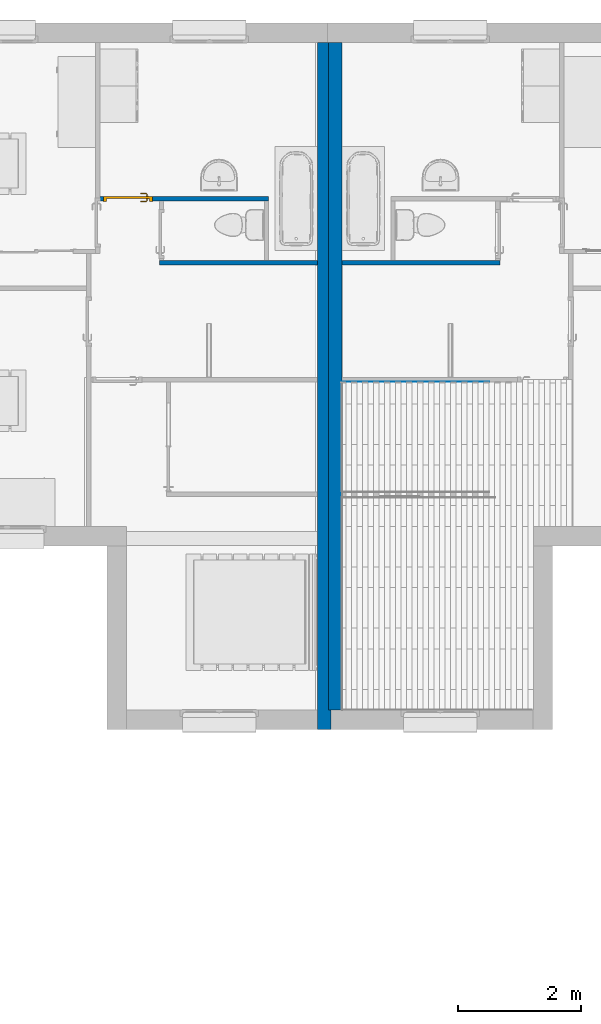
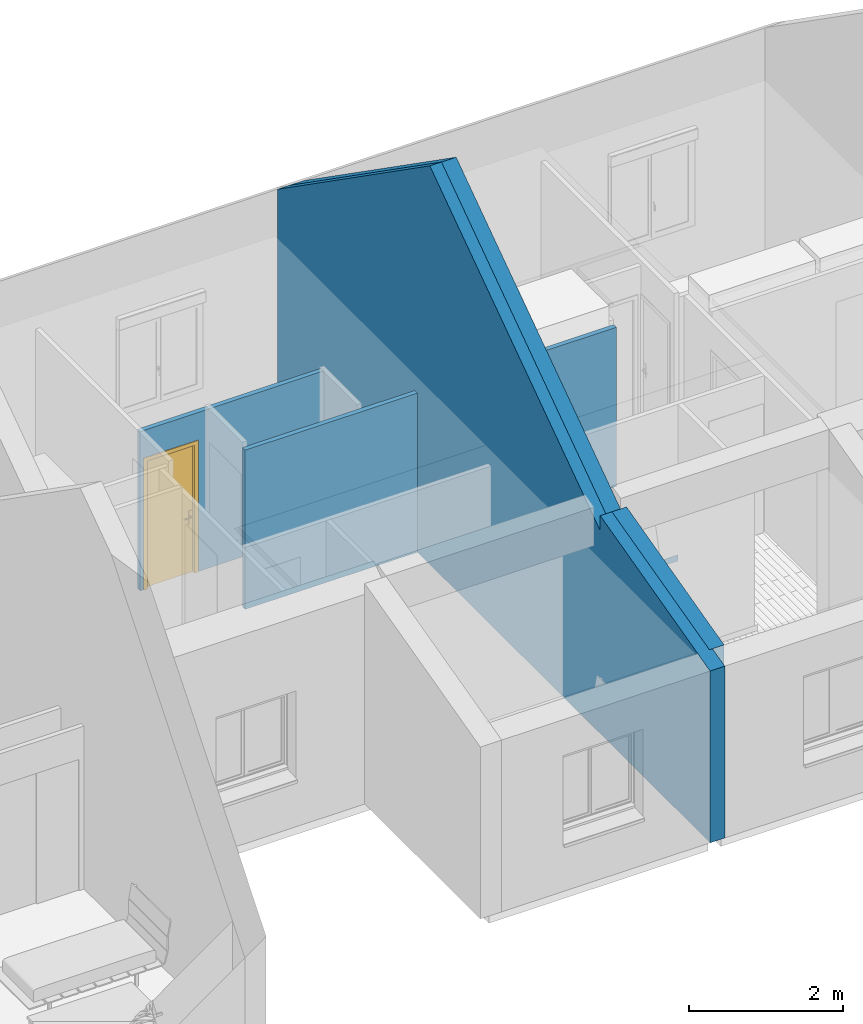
# One storey, part 31 of 50: 6 walls, 1 door, 1 opening.
"""IFC2X3 building model written with IfcOpenShell, lengths in metres."""

from ifc_helpers import new_model, entity, si_unit, converted_unit, derived_unit, direction, frame, frame_2d, origin, place, context, subcontext, project, spatial, polyline, rectangle, extrude, clip, halfspace, bounded_halfspace, faceted_brep, source, transform, mapped, material, material_list, layer, layer_set, layer_usage, type_object, type_shapes, element, fill, save


model = new_model("IFC2X3")

# Units and contexts
model_context = context("Model", 3, precision=1e-05, world=origin(), true_north=direction((6.12303176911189e-17, 1.0)))
context_of_model = context(None, 3, precision=1e-05, world=origin(), true_north=direction((6.12303176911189e-17, 1.0)))
body_context = subcontext(model_context, "Body", "Model", "MODEL_VIEW")
ifc_project = project(units=[si_unit("LENGTHUNIT", "METRE"), si_unit("AREAUNIT", "SQUARE_METRE"), si_unit("VOLUMEUNIT", "CUBIC_METRE"), converted_unit("PLANEANGLEUNIT", "DEGREE", entity("IfcRatioMeasure", 0.0174532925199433), si_unit("PLANEANGLEUNIT", "RADIAN"), dimensions=[0, 0, 0, 0, 0, 0, 0]), si_unit("MASSUNIT", "GRAM", prefix="KILO"), si_unit("TIMEUNIT", "SECOND"), si_unit("FREQUENCYUNIT", "HERTZ"), si_unit("THERMODYNAMICTEMPERATUREUNIT", "DEGREE_CELSIUS"), derived_unit("THERMALTRANSMITTANCEUNIT", [(si_unit("MASSUNIT", "GRAM", prefix="KILO"), 1), (si_unit("THERMODYNAMICTEMPERATUREUNIT", "KELVIN"), -1), (si_unit("TIMEUNIT", "SECOND"), -3)]), derived_unit("VOLUMETRICFLOWRATEUNIT", [(si_unit("LENGTHUNIT", "METRE"), 3), (si_unit("TIMEUNIT", "SECOND"), -1)]), si_unit("ELECTRICCURRENTUNIT", "AMPERE"), si_unit("ELECTRICVOLTAGEUNIT", "VOLT"), si_unit("POWERUNIT", "WATT"), si_unit("FORCEUNIT", "NEWTON", prefix="KILO"), si_unit("ILLUMINANCEUNIT", "LUX"), si_unit("LUMINOUSFLUXUNIT", "LUMEN"), si_unit("LUMINOUSINTENSITYUNIT", "CANDELA"), si_unit("PRESSUREUNIT", "PASCAL")], contexts=[model_context, context_of_model])

# Site, building, storey
site_placement = place(None, origin())
site = spatial("IfcSite", under=ifc_project, at=site_placement, Name="Surface", CompositionType="ELEMENT")
building_placement = place(site_placement, origin())
building = spatial("IfcBuilding", under=site, at=building_placement, CompositionType="ELEMENT")
storey_placement = place(building_placement, frame((0.0, 0.0, 2.82)))
storey = spatial("IfcBuildingStorey", under=building, at=storey_placement, Name="ETAGE", CompositionType="ELEMENT", Elevation=2.82)

# Walls
ifc_material_1 = material(Name="Peinture - Blanc")
ifc_layer_1 = layer(ifc_material_1, 0.07)
ifc_layer_set_1 = layer_set([ifc_layer_1], Name="Mur de base:Int.  Platre 70 mm en blanc")
ifc_layer_usage_1 = layer_usage(ifc_layer_set_1, "AXIS2", "NEGATIVE", 0.035)
wall_type_1 = type_object("IfcWallType", Name="Mur de base:Int.  Platre 70 mm en blanc", PredefinedType="STANDARD", material=ifc_layer_set_1)
wall_1_placement = place(storey_placement, frame((83.9264023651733, 88.5492045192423, 0.0)))
element("IfcWallStandardCase", 1, at=wall_1_placement, inside=storey, type_object=wall_type_1, material=ifc_layer_usage_1, Name="Mur de base:Int.  Platre 70 mm en blanc", ObjectType="Mur de base:Int.  Platre 70 mm en blanc", context=body_context, shape_type="SweptSolid", body=[
    extrude(rectangle(XDim=2.58204916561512, YDim=0.0699999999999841, at=frame_2d((1.29102458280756, 0.0), x_axis=(-1.0, 0.0))), origin(), (0.0, 0.0, 1.0), 2.52),
])
ifc_layer_usage_2 = layer_usage(ifc_layer_set_1, "AXIS2", "POSITIVE", -0.035)
wall_2_placement = place(storey_placement, frame((83.5314023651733, 88.5492045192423, 0.0), z_axis=(0.0, 0.0, 1.0), x_axis=(-1.0, 0.0, 0.0)))
element("IfcWallStandardCase", 2, at=wall_2_placement, inside=storey, type_object=wall_type_1, material=ifc_layer_usage_2, Name="Mur de base:Int.  Platre 70 mm en blanc", ObjectType="Mur de base:Int.  Platre 70 mm en blanc", context=body_context, shape_type="SweptSolid", body=[
    extrude(rectangle(XDim=2.58204916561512, YDim=0.0699999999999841, at=frame_2d((1.29102458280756, 0.0), x_axis=(-1.0, 0.0))), origin(), (0.0, 0.0, 1.0), 2.52),
])

# Wall, opening, door
ifc_layer_usage_3 = layer_usage(ifc_layer_set_1, "AXIS2", "POSITIVE", -0.035)
wall_3_placement = place(storey_placement, frame((82.7310189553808, 89.5925239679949, 0.0), z_axis=(0.0, 0.0, 1.0), x_axis=(-1.0, 0.0, 0.0)))
wall_3 = element("IfcWallStandardCase", 3, at=wall_3_placement, inside=storey, type_object=wall_type_1, material=ifc_layer_usage_3, Name="Mur de base:Int.  Platre 70 mm en blanc", ObjectType="Mur de base:Int.  Platre 70 mm en blanc", context=body_context, shape_type="SweptSolid", body=[
    extrude(rectangle(XDim=2.7521165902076, YDim=0.0699999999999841, at=frame_2d((1.3760582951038, 2.04350425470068e-15), x_axis=(-1.0, 0.0))), origin(), (0.0, 0.0, 1.0), 2.52),
])
opening_placement = place(wall_3_placement, frame((2.69355829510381, 0.0350000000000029, 0.0)))
opening = element("IfcOpeningElement", 4, at=opening_placement, cuts=wall_3, Name="FR_Simple (R):73 x 204 - (70):1", ObjectType="Opening", context=body_context, shape_type="SweptSolid", body=[
    extrude(rectangle(XDim=2.075, YDim=0.799999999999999, at=frame_2d((1.0375, 0.400000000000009), x_axis=(1.0, 0.0))), frame((0.0, 0.0, 0.0), z_axis=(0.0, -1.0, 0.0), x_axis=(0.0, 0.0, 1.0)), (0.0, 0.0, 1.0), 0.07),
])
ifc_material_2 = material(Name="Poignée Porte")
ifc_material_3 = material(Name="Dormants Portes")
ifc_material_4 = material(Name="Panneaux Portes")
ifc_material_list_1 = material_list([ifc_material_2, ifc_material_3, ifc_material_4])
ifc_material_list_2 = material_list([ifc_material_2, ifc_material_3, ifc_material_4])
door_style = type_object("IfcDoorStyle", Name="73 x 204 - (70)", ConstructionType="NOTDEFINED", OperationType="SINGLE_SWING_LEFT", ParameterTakesPrecedence=False, Sizeable=False, material=ifc_material_list_2)
shared_shape = source(origin(), body_context, "Body", "Brep", [
    faceted_brep([(0.100352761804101, -0.0130000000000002, 0.766003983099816), (0.11, -0.0130000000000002, 0.770000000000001), (0.11, -0.0130000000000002, 0.980000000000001), (0.100352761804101, -0.0130000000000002, 0.983996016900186), (0.0900000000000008, -0.0130000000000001, 0.985358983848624), (0.0796472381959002, -0.0130000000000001, 0.983996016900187), (0.0700000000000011, -0.0130000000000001, 0.980000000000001), (0.0700000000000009, -0.0130000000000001, 0.770000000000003), (0.0796472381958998, -0.0130000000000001, 0.766003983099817), (0.0900000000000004, -0.0130000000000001, 0.764641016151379), (0.100352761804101, -0.00800000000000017, 0.983996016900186), (0.11, -0.00800000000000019, 0.980000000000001), (0.11, -0.00800000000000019, 0.770000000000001), (0.100352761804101, -0.00800000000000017, 0.766003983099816), (0.0900000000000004, -0.00800000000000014, 0.764641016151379), (0.0796472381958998, -0.0080000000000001, 0.766003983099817), (0.0700000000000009, -0.00800000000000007, 0.770000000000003), (0.0700000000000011, -0.00800000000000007, 0.980000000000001), (0.0796472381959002, -0.0080000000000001, 0.983996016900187), (0.0900000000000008, -0.00800000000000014, 0.985358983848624)], [[[0, 1, 2, 3, 4, 5, 6, 7, 8, 9]], [[10, 11, 12, 13, 14, 15, 16, 17, 18, 19]], [[16, 15, 8, 7]], [[8, 15, 14, 9]], [[14, 13, 0, 9]], [[13, 12, 1, 0]], [[2, 1, 12, 11]], [[11, 10, 3, 2]], [[3, 10, 19, 4]], [[19, 18, 5, 4]], [[18, 17, 6, 5]], [[7, 6, 17, 16]]]),
    faceted_brep([(0.100352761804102, 0.0319999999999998, 0.766003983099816), (0.110000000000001, 0.0319999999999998, 0.770000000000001), (0.11, 0.0319999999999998, 0.980000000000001), (0.100352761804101, 0.0319999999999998, 0.983996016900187), (0.0900000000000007, 0.0319999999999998, 0.985358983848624), (0.0796472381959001, 0.0319999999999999, 0.983996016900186), (0.0700000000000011, 0.0319999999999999, 0.980000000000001), (0.0700000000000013, 0.0319999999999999, 0.770000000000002), (0.0796472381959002, 0.0319999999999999, 0.766003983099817), (0.0900000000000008, 0.0319999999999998, 0.764641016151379), (0.100352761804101, 0.0369999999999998, 0.983996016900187), (0.11, 0.0369999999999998, 0.980000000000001), (0.110000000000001, 0.0369999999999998, 0.770000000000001), (0.100352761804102, 0.0369999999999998, 0.766003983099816), (0.0900000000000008, 0.0369999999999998, 0.764641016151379), (0.0796472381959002, 0.0369999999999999, 0.766003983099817), (0.0700000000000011, 0.0369999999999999, 0.770000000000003), (0.0700000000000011, 0.0369999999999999, 0.980000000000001), (0.0796472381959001, 0.0369999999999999, 0.983996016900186), (0.0900000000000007, 0.0369999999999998, 0.985358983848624)], [[[0, 1, 2, 3, 4, 5, 6, 7, 8, 9]], [[10, 11, 12, 13, 14, 15, 16, 17, 18, 19]], [[11, 10, 3, 2]], [[3, 10, 19, 4]], [[19, 18, 5, 4]], [[18, 17, 6, 5]], [[7, 6, 17, 16]], [[16, 15, 8, 7]], [[8, 15, 14, 9]], [[14, 13, 0, 9]], [[13, 12, 1, 0]], [[2, 1, 12, 11]]]),
    faceted_brep([(0.0879747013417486, -0.0130000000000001, 0.907780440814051), (0.0920252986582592, -0.0130000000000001, 0.907780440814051), (0.0960000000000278, -0.0130000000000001, 0.906999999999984), (0.0960000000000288, -0.0130000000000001, 0.893000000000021), (0.0920252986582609, -0.0130000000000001, 0.89221955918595), (0.0879747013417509, -0.0130000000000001, 0.892219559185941), (0.0839999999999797, -0.0130000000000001, 0.892999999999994), (0.0839999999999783, -0.0130000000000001, 0.90699999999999), (0.083999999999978, -0.0406509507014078, 0.906999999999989), (0.0879747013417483, -0.0390045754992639, 0.907780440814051), (0.104023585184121, -0.0550534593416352, 0.907780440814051), (0.105701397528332, -0.0510028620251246, 0.907780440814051), (0.0920252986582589, -0.0373267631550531, 0.907780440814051), (0.198521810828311, -0.0473891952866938, 0.90778044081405), (0.195657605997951, -0.0445249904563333, 0.90778044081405), (0.18917973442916, -0.0510028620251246, 0.90778044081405), (0.190857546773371, -0.0550534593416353, 0.90778044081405), (0.0960000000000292, -0.0356803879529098, 0.90699999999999), (0.0960000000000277, -0.0356803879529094, 0.893000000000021), (0.0920252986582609, -0.0373267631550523, 0.89221955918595), (0.105701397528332, -0.0510028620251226, 0.89221955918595), (0.104023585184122, -0.0550534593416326, 0.89221955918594), (0.0879747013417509, -0.0390045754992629, 0.89221955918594), (0.195657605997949, -0.044524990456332, 0.89221955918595), (0.19852181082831, -0.0473891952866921, 0.89221955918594), (0.19085754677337, -0.0550534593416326, 0.89221955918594), (0.18917973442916, -0.0510028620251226, 0.89221955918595), (0.0839999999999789, -0.0406509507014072, 0.892999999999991), (0.102377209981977, -0.0590281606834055, 0.906999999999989), (0.107347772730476, -0.0470281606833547, 0.90699999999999), (0.107347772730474, -0.0470281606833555, 0.893000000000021), (0.102377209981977, -0.0590281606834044, 0.892999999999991), (0.142307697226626, -0.0590281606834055, 0.906999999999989), (0.147440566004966, -0.053182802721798, 0.907878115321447), (0.192503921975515, -0.0590281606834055, 0.906999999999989), (0.147440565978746, -0.0470281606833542, 0.90699999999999), (0.187533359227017, -0.0470281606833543, 0.906999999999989), (0.187533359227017, -0.0470281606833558, 0.89300000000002), (0.147440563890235, -0.0470281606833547, 0.893000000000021), (0.147440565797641, -0.0531828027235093, 0.892121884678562), (0.192503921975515, -0.0590281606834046, 0.892999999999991), (0.152573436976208, -0.0590281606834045, 0.892999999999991), (0.192847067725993, -0.0417144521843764, 0.906999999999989), (0.201332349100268, -0.0501997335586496, 0.906999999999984), (0.201332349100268, -0.05019973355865, 0.892999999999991), (0.192847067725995, -0.0417144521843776, 0.893000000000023)], [[[0, 1, 2, 3, 4, 5, 6, 7]], [[8, 9, 0, 7]], [[9, 10, 11, 12, 1, 0]], [[13, 14, 15, 16]], [[12, 17, 2, 1]], [[3, 2, 17, 18]], [[18, 19, 4, 3]], [[19, 20, 21, 22, 5, 4]], [[23, 24, 25, 26]], [[22, 27, 6, 5]], [[7, 6, 27, 8]], [[28, 10, 9, 8]], [[11, 29, 17, 12]], [[18, 17, 29, 30]], [[30, 20, 19, 18]], [[21, 31, 27, 22]], [[8, 27, 31, 28]], [[32, 33, 10]], [[33, 32, 16]], [[10, 28, 32]], [[34, 16, 32]], [[33, 35, 11]], [[11, 10, 33]], [[15, 35, 33]], [[29, 11, 35]], [[35, 15, 36]], [[15, 33, 16]], [[30, 29, 35, 36, 37, 38]], [[20, 38, 39]], [[25, 40, 41]], [[31, 21, 41]], [[41, 21, 39]], [[39, 38, 26]], [[26, 25, 39]], [[38, 20, 30]], [[37, 26, 38]], [[20, 39, 21]], [[41, 39, 25]], [[28, 31, 41, 40, 34, 32]], [[42, 14, 13, 43, 44, 24, 23, 45]], [[43, 13, 16, 34]], [[14, 42, 36, 15]], [[37, 36, 42, 45]], [[45, 23, 26, 37]], [[24, 44, 40, 25]], [[34, 40, 44, 43]]]),
    faceted_brep([(0.0879747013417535, 0.0369999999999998, 0.892219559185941), (0.092025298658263, 0.0369999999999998, 0.892219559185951), (0.0960000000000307, 0.0369999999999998, 0.893000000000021), (0.096000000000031, 0.0369999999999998, 0.90699999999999), (0.0920252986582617, 0.0369999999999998, 0.907780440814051), (0.0879747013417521, 0.0369999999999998, 0.907780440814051), (0.0839999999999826, 0.0369999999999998, 0.90699999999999), (0.0839999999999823, 0.0369999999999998, 0.892999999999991), (0.0960000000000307, 0.0594852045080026, 0.893000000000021), (0.0960000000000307, 0.0594852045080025, 0.90699999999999), (0.092025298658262, 0.0611315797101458, 0.907780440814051), (0.105838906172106, 0.0749451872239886, 0.907780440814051), (0.104161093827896, 0.0789957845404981, 0.907780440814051), (0.0879747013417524, 0.0628093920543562, 0.907780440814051), (0.195684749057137, 0.0684673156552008, 0.907780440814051), (0.198548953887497, 0.071331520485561, 0.907780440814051), (0.190884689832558, 0.0789957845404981, 0.907780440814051), (0.189206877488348, 0.0749451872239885, 0.907780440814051), (0.0839999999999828, 0.0644557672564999, 0.90699999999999), (0.0839999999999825, 0.0644557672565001, 0.892999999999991), (0.0879747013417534, 0.0628093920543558, 0.892219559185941), (0.104161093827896, 0.0789957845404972, 0.892219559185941), (0.105838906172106, 0.0749451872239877, 0.892219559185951), (0.0920252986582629, 0.0611315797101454, 0.892219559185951), (0.198548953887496, 0.07133152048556, 0.89221955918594), (0.195684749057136, 0.0684673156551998, 0.89221955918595), (0.189206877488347, 0.0749451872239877, 0.89221955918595), (0.190884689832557, 0.0789957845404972, 0.89221955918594), (0.107485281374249, 0.0709704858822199, 0.893000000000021), (0.107485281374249, 0.0709704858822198, 0.90699999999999), (0.102514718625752, 0.0829704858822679, 0.90699999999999), (0.102514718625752, 0.0829704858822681, 0.892999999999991), (0.147522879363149, 0.0709704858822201, 0.89300000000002), (0.187560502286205, 0.0709704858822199, 0.89300000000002), (0.187560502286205, 0.0709704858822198, 0.90699999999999), (0.147522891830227, 0.0709704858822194, 0.90699999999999), (0.147522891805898, 0.0771249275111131, 0.907878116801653), (0.192531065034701, 0.0829704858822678, 0.90699999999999), (0.152600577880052, 0.0829704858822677, 0.90699999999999), (0.192531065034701, 0.082970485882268, 0.892999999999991), (0.142445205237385, 0.0829704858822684, 0.892999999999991), (0.147522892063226, 0.0771249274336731, 0.892121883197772), (0.192874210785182, 0.0656567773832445, 0.89300000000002), (0.201359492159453, 0.0741420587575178, 0.892999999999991), (0.201359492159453, 0.0741420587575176, 0.90699999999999), (0.192874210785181, 0.0656567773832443, 0.90699999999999)], [[[0, 1, 2, 3, 4, 5, 6, 7]], [[3, 2, 8, 9]], [[9, 10, 4, 3]], [[10, 11, 12, 13, 5, 4]], [[14, 15, 16, 17]], [[13, 18, 6, 5]], [[7, 6, 18, 19]], [[19, 20, 0, 7]], [[20, 21, 22, 23, 1, 0]], [[24, 25, 26, 27]], [[23, 8, 2, 1]], [[9, 8, 28, 29]], [[29, 11, 10, 9]], [[12, 30, 18, 13]], [[19, 18, 30, 31]], [[31, 21, 20, 19]], [[22, 28, 8, 23]], [[28, 32, 33, 34, 35, 29]], [[11, 35, 36]], [[16, 37, 38]], [[30, 12, 38]], [[38, 12, 36]], [[36, 35, 17]], [[17, 16, 36]], [[35, 11, 29]], [[34, 17, 35]], [[11, 36, 12]], [[38, 36, 16]], [[31, 30, 38, 37, 39, 40]], [[40, 41, 21]], [[41, 40, 27]], [[21, 31, 40]], [[39, 27, 40]], [[41, 32, 22]], [[22, 21, 41]], [[26, 32, 41]], [[28, 22, 32]], [[32, 26, 33]], [[26, 41, 27]], [[42, 25, 24, 43, 44, 15, 14, 45]], [[34, 33, 42, 45]], [[45, 14, 17, 34]], [[15, 44, 37, 16]], [[39, 37, 44, 43]], [[43, 24, 27, 39]], [[25, 42, 33, 26]]]),
    faceted_brep([(0.0, 0.0, 0.0), (0.0, 0.0700000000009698, 0.0), (-0.00999999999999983, 0.0700000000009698, 0.0), (-0.00999999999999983, 0.0780000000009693, 0.0), (0.0499999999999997, 0.0780000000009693, 0.0), (0.0499999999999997, 0.032, 0.0), (0.0350000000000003, 0.032, 0.0), (0.0350000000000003, -0.00799999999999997, 0.0), (-0.00999999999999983, -0.00799999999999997, 0.0), (-0.00999999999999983, 0.0, 0.0), (0.0, 0.0, 2.075), (0.0, 0.0700000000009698, 2.075), (0.799999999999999, 0.0700000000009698, 2.075), (0.799999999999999, 0.0700000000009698, 0.0), (0.809999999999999, 0.0700000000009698, 0.0), (0.809999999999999, 0.0700000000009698, 2.085), (-0.00999999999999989, 0.0700000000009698, 2.085), (-0.00999999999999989, 0.0780000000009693, 2.085), (0.809999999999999, 0.0780000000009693, 2.085), (0.809999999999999, 0.0780000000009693, 0.0), (0.75, 0.0780000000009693, 0.0), (0.75, 0.0780000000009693, 2.025), (0.0499999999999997, 0.0780000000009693, 2.025), (0.0499999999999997, 0.032, 2.025), (0.75, 0.032, 2.025), (0.75, 0.032, 0.0), (0.764999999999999, 0.032, 0.0), (0.764999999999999, 0.032, 2.04), (0.0350000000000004, 0.032, 2.04), (0.0350000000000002, -0.00799999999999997, 2.04), (0.764999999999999, -0.00799999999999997, 2.04), (0.764999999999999, -0.00799999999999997, 0.0), (0.809999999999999, -0.00799999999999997, 0.0), (0.809999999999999, -0.00799999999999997, 2.085), (-0.00999999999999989, -0.00799999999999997, 2.085), (-0.00999999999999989, 0.0, 2.085), (0.809999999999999, 0.0, 2.085), (0.809999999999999, 0.0, 0.0), (0.799999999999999, 0.0, 0.0), (0.799999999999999, 0.0, 2.075)], [[[0, 1, 2, 3, 4, 5, 6, 7, 8, 9]], [[1, 0, 10, 11]], [[2, 1, 11, 12, 13, 14, 15, 16]], [[3, 2, 16, 17]], [[4, 3, 17, 18, 19, 20, 21, 22]], [[5, 4, 22, 23]], [[6, 5, 23, 24, 25, 26, 27, 28]], [[7, 6, 28, 29]], [[8, 7, 29, 30, 31, 32, 33, 34]], [[9, 8, 34, 35]], [[0, 9, 35, 36, 37, 38, 39, 10]], [[11, 10, 39, 12]], [[17, 16, 15, 18]], [[23, 22, 21, 24]], [[29, 28, 27, 30]], [[35, 34, 33, 36]], [[38, 37, 32, 31, 26, 25, 20, 19, 14, 13]], [[12, 39, 38, 13]], [[18, 15, 14, 19]], [[24, 21, 20, 25]], [[30, 27, 26, 31]], [[36, 33, 32, 37]]]),
    faceted_brep([(0.0350000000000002, -0.00799999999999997, 2.04), (0.0350000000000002, -0.00799999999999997, 0.0), (0.764999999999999, -0.00799999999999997, 0.0), (0.764999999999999, -0.00799999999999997, 2.04), (0.0350000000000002, 0.032, 2.04), (0.764999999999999, 0.032, 2.04), (0.764999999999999, 0.032, 0.0), (0.0350000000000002, 0.032, 0.0)], [[[0, 1, 2, 3]], [[4, 5, 6, 7]], [[1, 0, 4, 7]], [[2, 1, 7, 6]], [[3, 2, 6, 5]], [[0, 3, 5, 4]]]),
])
type_shapes(door_style, [shared_shape])
door_placement = place(opening_placement, frame((-0.800000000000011, -0.069999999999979, 0.0)))
door = element("IfcDoor", 5, at=door_placement, inside=storey, type_object=door_style, material=ifc_material_list_1, Name="FR_Simple (R):73 x 204 - (70)", ObjectType="73 x 204 - (70)", OverallHeight=2.075, OverallWidth=0.800000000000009, context=body_context, shape_type="MappedRepresentation", body=[
    mapped(shared_shape, transform((0.0, 0.0, 0.0), scale=1.0)),
])
fill(opening, door)

# Walls
ifc_material_5 = material(Name="Enduit blanc cassé2")
ifc_layer_2 = layer(ifc_material_5, 0.02)
ifc_material_6 = material(Name="Parpaing")
ifc_layer_3 = layer(ifc_material_6, 0.1)
ifc_material_7 = material(Name="Isolant")
ifc_layer_4 = layer(ifc_material_7, 0.1)
ifc_layer_set_2 = layer_set([ifc_layer_2, ifc_layer_3, ifc_layer_4], Name="Mur de base:MITOYEN. Parpaing 10 + Isolant 10+ PLACO 2")
ifc_layer_usage_4 = layer_usage(ifc_layer_set_2, "AXIS2", "NEGATIVE", 0.11)
wall_type_2 = type_object("IfcWallType", Name="Mur de base:MITOYEN. Parpaing 10 + Isolant 10+ PLACO 2", PredefinedType="STANDARD", material=ifc_layer_set_2)
wall_4_placement = place(storey_placement, frame((83.8164023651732, 81.2475239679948, 0.0), z_axis=(0.0, 0.0, 1.0), x_axis=(0.0, 1.0, 0.0)))
element("IfcWallStandardCase", 6, at=wall_4_placement, inside=storey, type_object=wall_type_2, material=ifc_layer_usage_4, Name="Mur de base:MITOYEN. Parpaing 10 + Isolant 10+ PLACO 2", ObjectType="Mur de base:MITOYEN. Parpaing 10 + Isolant 10+ PLACO 2", context=body_context, shape_type="Clipping", body=[
    clip(clip(clip(extrude(rectangle(XDim=10.9, YDim=0.219999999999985, at=frame_2d((5.45000000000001, 4.71844785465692e-16), x_axis=(-1.0, 0.0))), origin(), (0.0, 0.0, 1.0), 6.30988618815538), bounded_halfspace(frame((6.95000000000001, -0.110000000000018, 6.30988618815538), z_axis=(0.573576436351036, 0.0, 0.819152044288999), x_axis=(0.0, 1.0, 0.0)), False, frame((6.95000000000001, -0.110000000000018, 6.30988618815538)), polyline([(0.0, 0.0), (3.95, 0.0), (3.95, 0.157499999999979), (3.95, 0.220000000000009), (0.0, 0.220000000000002), (0.0, 0.0)]))), bounded_halfspace(frame((2.53000000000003, -0.110000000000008, 3.21496886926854), z_axis=(-0.573576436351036, 0.0, 0.819152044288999), x_axis=(0.0, -1.0, 0.0)), False, frame((2.53000000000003, -0.110000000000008, 3.21496886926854)), polyline([(0.0, 0.0), (4.41999999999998, 0.0), (4.41999999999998, 0.219999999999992), (0.0, 0.220000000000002), (0.0, 0.0)]))), bounded_halfspace(frame((0.0, -0.110000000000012, 2.8022236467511), z_axis=(-0.248864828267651, 0.0, 0.968538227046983), x_axis=(0.0, -1.0, 0.0)), False, frame((0.0, -0.110000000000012, 2.8022236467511)), polyline([(0.0, 0.0), (2.53000000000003, 0.0), (2.53000000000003, 0.220000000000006), (0.0, 0.220000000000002), (0.0, 0.174999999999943), (0.0, 0.0)]))),
])
ifc_layer_usage_5 = layer_usage(ifc_layer_set_2, "AXIS2", "POSITIVE", -0.11)
wall_5_placement = place(storey_placement, frame((83.6414023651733, 80.9275239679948, 0.0), z_axis=(0.0, 0.0, 1.0), x_axis=(0.0, 1.0, 0.0)))
element("IfcWallStandardCase", 7, at=wall_5_placement, inside=storey, type_object=wall_type_2, material=ifc_layer_usage_5, Name="Mur de base:MITOYEN. Parpaing 10 + Isolant 10+ PLACO 2", ObjectType="Mur de base:MITOYEN. Parpaing 10 + Isolant 10+ PLACO 2", context=body_context, shape_type="Clipping", body=[
    clip(clip(clip(extrude(rectangle(XDim=11.22, YDim=0.219999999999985, at=frame_2d((5.61000000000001, -7.35522753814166e-16), x_axis=(-1.0, 0.0))), origin(), (0.0, 0.0, 1.0), 6.30988618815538), bounded_halfspace(frame((7.27000000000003, -0.110000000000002, 6.30988618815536), z_axis=(0.573576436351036, 0.0, 0.819152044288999), x_axis=(0.0, 1.0, 0.0)), False, frame((7.27000000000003, -0.110000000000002, 6.30988618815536)), polyline([(0.0, 0.0), (3.94999999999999, 0.0), (3.94999999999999, 0.0625000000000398), (3.94999999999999, 0.219999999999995), (0.0, 0.220000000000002), (0.0, 0.0)]))), bounded_halfspace(frame((2.85000000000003, -0.110000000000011, 3.21496886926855), z_axis=(-0.573576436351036, 0.0, 0.819152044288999), x_axis=(0.0, -1.0, 0.0)), False, frame((2.85000000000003, -0.110000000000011, 3.21496886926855)), polyline([(0.0, 0.0), (4.42, 0.0), (4.42, 0.220000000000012), (0.0, 0.220000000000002), (0.0, 0.0)]))), bounded_halfspace(frame((0.0, -0.110000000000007, 2.72), z_axis=(-0.248864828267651, 0.0, 0.968538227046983), x_axis=(0.0, -1.0, 0.0)), False, frame((0.0, -0.110000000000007, 2.72)), polyline([(0.0, 0.0), (0.319999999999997, 0.0), (2.85000000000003, 0.0), (2.85000000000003, 0.219999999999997), (0.319999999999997, 0.220000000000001), (0.0, 0.220000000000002), (0.0, 0.0)]))),
])
ifc_material_8 = material(Name="biorox 2")
ifc_layer_5 = layer(ifc_material_8, 0.002)
ifc_layer_set_3 = layer_set([ifc_layer_5], Name="Mur de base:peinture biorox 2")
ifc_layer_usage_6 = layer_usage(ifc_layer_set_3, "AXIS2", "NEGATIVE", 0.001)
wall_type_3 = type_object("IfcWallType", Name="Mur de base:peinture biorox 2", PredefinedType="STANDARD", material=ifc_layer_set_3)
wall_6_placement = place(storey_placement, frame((83.9310898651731, 86.6061045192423, 0.0400000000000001)))
element("IfcWallStandardCase", 8, at=wall_6_placement, inside=storey, type_object=wall_type_3, material=ifc_layer_usage_6, Name="Mur de base:peinture biorox 2", ObjectType="Mur de base:peinture biorox 2", context=body_context, shape_type="Clipping", body=[
    clip(extrude(rectangle(XDim=2.39781250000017, YDim=0.00199999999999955, at=frame_2d((1.19890625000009, 0.0), x_axis=(-1.0, 0.0))), origin(), (0.0, 0.0, 1.0), 0.0997627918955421), halfspace(frame((0.0, -0.000999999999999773, 0.0997627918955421), z_axis=(0.0, 0.0, 1.0), x_axis=(0.0, 1.0, 0.0)), False)),
])

save(model, "model.ifc")
